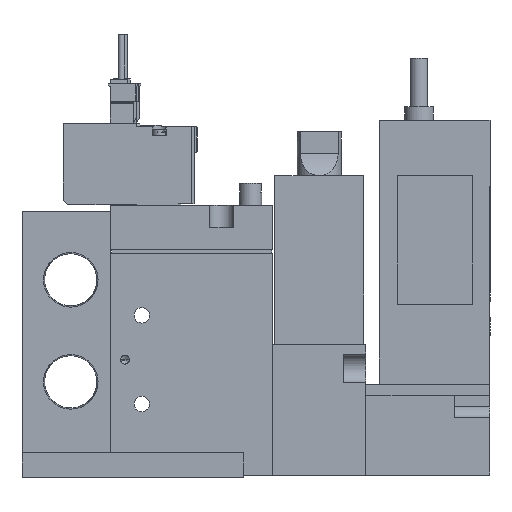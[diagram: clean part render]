
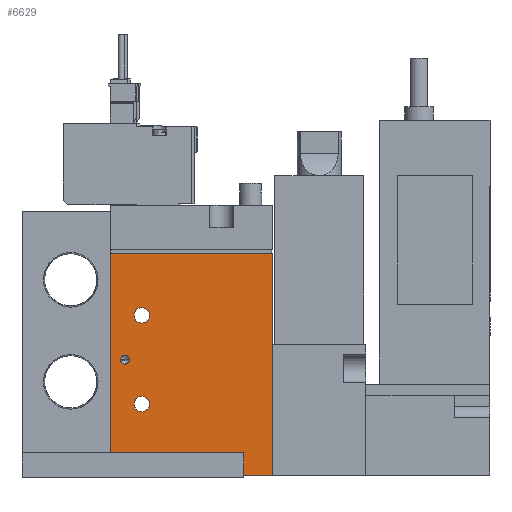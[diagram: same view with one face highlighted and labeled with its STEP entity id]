
A CAD part, left-side view. The second image highlights one B-rep face of the part: STEP entity #6629.
In plain terms, the highlighted planar face has unit normal (-1, 0, 0) as drawn and (1, 0, 0) by its records, which use the part's own axes.
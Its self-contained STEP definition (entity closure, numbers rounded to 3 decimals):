
#6629=ADVANCED_FACE('',(#11006,#11007,#11008,#11009),#11010,.F.);
#11006=FACE_BOUND('',#18318,.T.);
#11007=FACE_BOUND('',#18319,.T.);
#11008=FACE_BOUND('',#18320,.T.);
#11009=FACE_OUTER_BOUND('',#18321,.T.);
#11010=PLANE('',#18322);
#18318=EDGE_LOOP('',(#29330));
#18319=EDGE_LOOP('',(#29331));
#18320=EDGE_LOOP('',(#29332));
#18321=EDGE_LOOP('',(#29333,#29334,#29335,#29336));
#18322=AXIS2_PLACEMENT_3D('',#29337,#29338,#29339);
#29330=ORIENTED_EDGE('',*,*,#50391,.F.);
#29331=ORIENTED_EDGE('',*,*,#50393,.T.);
#29332=ORIENTED_EDGE('',*,*,#50394,.T.);
#29333=ORIENTED_EDGE('',*,*,#50384,.T.);
#29334=ORIENTED_EDGE('',*,*,#50381,.F.);
#29335=ORIENTED_EDGE('',*,*,#50385,.F.);
#29336=ORIENTED_EDGE('',*,*,#50377,.T.);
#29337=CARTESIAN_POINT('',(8.5,-19.444,50.0));
#29338=DIRECTION('',(-1.0,0.0,0.0));
#29339=DIRECTION('',(0.0,0.0,1.0));
#50377=EDGE_CURVE('',#59276,#59274,#59277,.T.);
#50381=EDGE_CURVE('',#59281,#59279,#59283,.T.);
#50384=EDGE_CURVE('',#59274,#59279,#59288,.T.);
#50385=EDGE_CURVE('',#59276,#59281,#59289,.T.);
#50391=EDGE_CURVE('',#59298,#59298,#59299,.T.);
#50393=EDGE_CURVE('',#59300,#59300,#59301,.T.);
#50394=EDGE_CURVE('',#59302,#59302,#59303,.T.);
#59274=VERTEX_POINT('',#74000);
#59276=VERTEX_POINT('',#74003);
#59277=LINE('',#74004,#74005);
#59279=VERTEX_POINT('',#74008);
#59281=VERTEX_POINT('',#74011);
#59283=LINE('',#74014,#74015);
#59288=LINE('',#74020,#74021);
#59289=LINE('',#74022,#74023);
#59298=VERTEX_POINT('',#74032);
#59299=CIRCLE('',#74033,1.0);
#59300=VERTEX_POINT('',#74034);
#59301=CIRCLE('',#74035,1.75);
#59302=VERTEX_POINT('',#74036);
#59303=CIRCLE('',#74037,1.75);
#74000=CARTESIAN_POINT('',(8.5,-19.444,0.0));
#74003=CARTESIAN_POINT('',(8.5,-19.444,50.0));
#74004=CARTESIAN_POINT('',(8.5,-19.444,50.0));
#74005=VECTOR('',#91888,1.0);
#74008=CARTESIAN_POINT('',(8.5,17.056,0.0));
#74011=CARTESIAN_POINT('',(8.5,17.056,50.0));
#74014=CARTESIAN_POINT('',(8.5,17.056,50.0));
#74015=VECTOR('',#91892,1.0);
#74020=CARTESIAN_POINT('',(8.5,-19.444,0.0));
#74021=VECTOR('',#91899,1.0);
#74022=CARTESIAN_POINT('',(8.5,-19.444,50.0));
#74023=VECTOR('',#91900,1.0);
#74032=CARTESIAN_POINT('',(8.5,-17.244,26.0));
#74033=AXIS2_PLACEMENT_3D('',#91913,#91914,#91915);
#74034=CARTESIAN_POINT('',(8.5,-10.694,36.0));
#74035=AXIS2_PLACEMENT_3D('',#91916,#91917,#91918);
#74036=CARTESIAN_POINT('',(8.5,-10.694,16.0));
#74037=AXIS2_PLACEMENT_3D('',#91919,#91920,#91921);
#91888=DIRECTION('',(0.0,0.0,-1.0));
#91892=DIRECTION('',(0.0,0.0,-1.0));
#91899=DIRECTION('',(0.0,1.0,0.0));
#91900=DIRECTION('',(0.0,1.0,0.0));
#91913=CARTESIAN_POINT('',(8.5,-16.244,26.0));
#91914=DIRECTION('',(1.0,0.,0.0));
#91915=DIRECTION('',(0.,-1.0,0.0));
#91916=CARTESIAN_POINT('',(8.5,-12.444,36.0));
#91917=DIRECTION('',(-1.0,0.0,0.0));
#91918=DIRECTION('',(0.0,1.0,0.0));
#91919=CARTESIAN_POINT('',(8.5,-12.444,16.0));
#91920=DIRECTION('',(-1.0,0.0,0.0));
#91921=DIRECTION('',(0.0,1.0,0.0));
